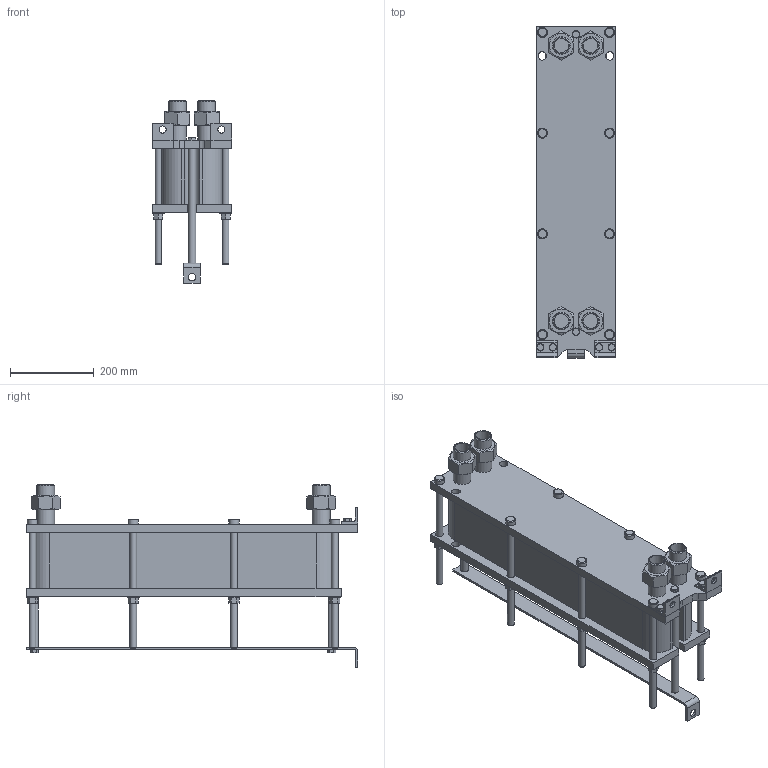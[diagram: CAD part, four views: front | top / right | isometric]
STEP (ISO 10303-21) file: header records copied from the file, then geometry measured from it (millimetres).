
FILE_DESCRIPTION(/* description */ (''),/* implementation_level */ '2;1');
FILE_NAME(/* name */ 'C:\Users\zhuro\Desktop\ENCO\TO\ЭН-008\ЭН-0,5-008-43-1.stp',/* time_stamp */ '2022-06-06T10:48:35+03:00',/* author */ ('zhuro'),/* organization */ (''),/* preprocessor_version */ 'ST-DEVELOPER v18.1',/* originating_system */ 'Autodesk Inventor 2022',/* authorisation */ '');
FILE_SCHEMA (('AUTOMOTIVE_DESIGN { 1 0 10303 214 3 1 1 }'));
Length unit declared in the file: millimetre
Products named in the file (1): ЭН-0,5-008-43-1
Bounding box: 190 x 790 x 435.4 mm (x, y, z)
Volume: 20318809.2 mm3; surface area: 1539371.5 mm2
Topology: 40 solids, 40 shells, 428 faces, 924 edges, 606 vertices
Faces by surface type: plane 273, cylinder 109, cone 40, torus 6
Full cylindrical faces by diameter (mm): 12 x6, 14 x2, 16 x20, 17 x8, 18 x19, 20 x5, 24 x8, 28 x8, 34.3 x8, 42.3 x8
Entity records: 15843 total; most frequent: CARTESIAN_POINT 5991, DIRECTION 1984, ORIENTED_EDGE 1848, EDGE_CURVE 924, AXIS2_PLACEMENT_3D 715, VERTEX_POINT 606, LINE 554, VECTOR 554
